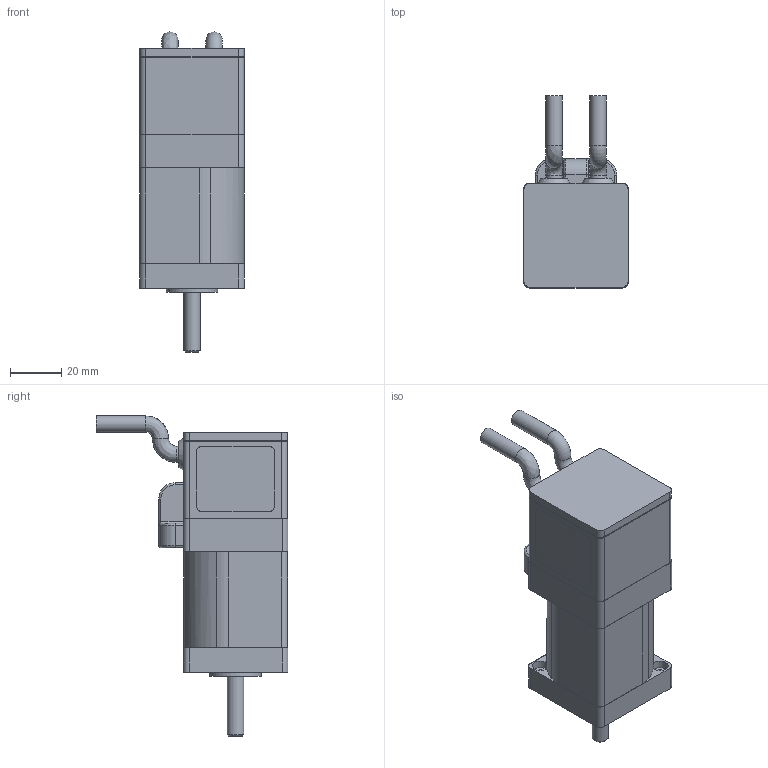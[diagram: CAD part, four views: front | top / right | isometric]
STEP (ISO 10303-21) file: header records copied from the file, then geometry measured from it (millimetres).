
FILE_DESCRIPTION((''),'2;1');
FILE_NAME('C:\CAD_work\Dummy_Modeling_Project_02-12-05\3D MODELS\BE163_CBL.stp','2005-12-20T15:06:22',('jevans'),(''),'Autodesk Inventor 10','Autodesk Inventor 10','');
FILE_SCHEMA(('AUTOMOTIVE_DESIGN { 1 0 10303 214 1 1 1 1 }'));
Length unit declared in the file: inch
Products named in the file (1): BE16_CBL
Bounding box: 40.89 x 74.9 x 125.07 mm (x, y, z)
Volume: 156655.9 mm3; surface area: 22961.9 mm2
Topology: 1 solids, 1 shells, 168 faces, 402 edges, 247 vertices
Faces by surface type: cylinder 72, plane 65, bspline 18, torus 12, cone 1
Full cylindrical faces by diameter (mm): 1.7 x2, 6.35 x3, 8.992 x1, 11.176 x1, 15.697 x1, 17 x1, 17.018 x2, 18.009 x1, 20.015 x1
Entity records: 5054 total; most frequent: CARTESIAN_POINT 1210, DIRECTION 847, ORIENTED_EDGE 728, EDGE_CURVE 364, AXIS2_PLACEMENT_3D 332, VERTEX_POINT 239, EDGE_LOOP 217, VECTOR 183
